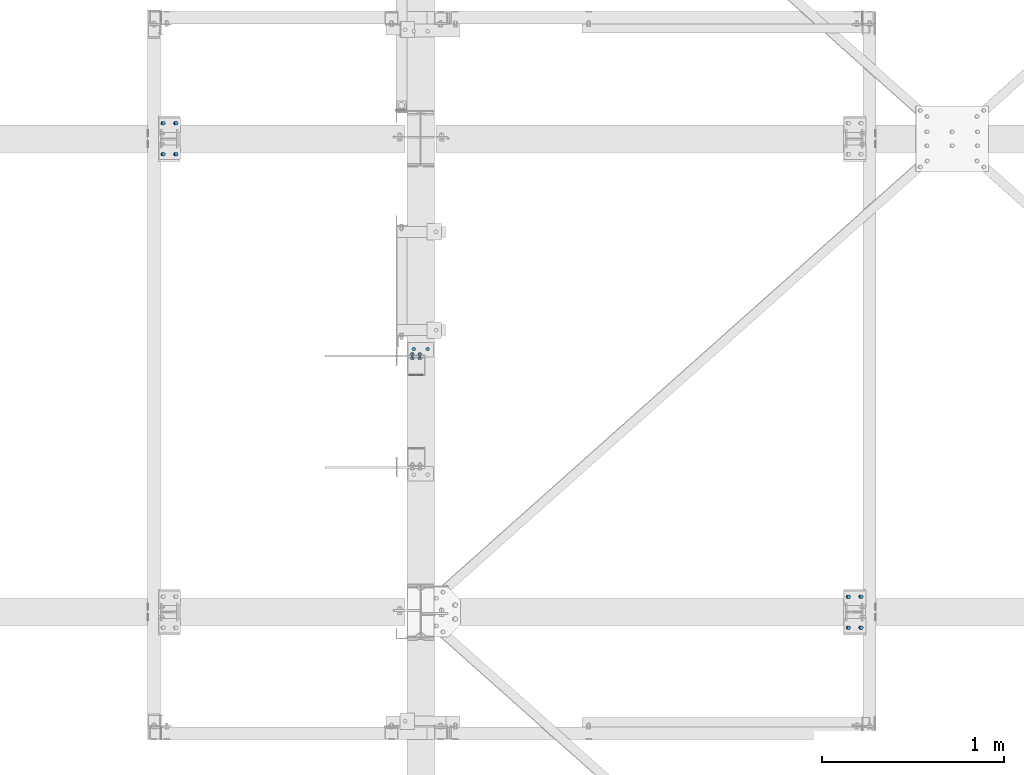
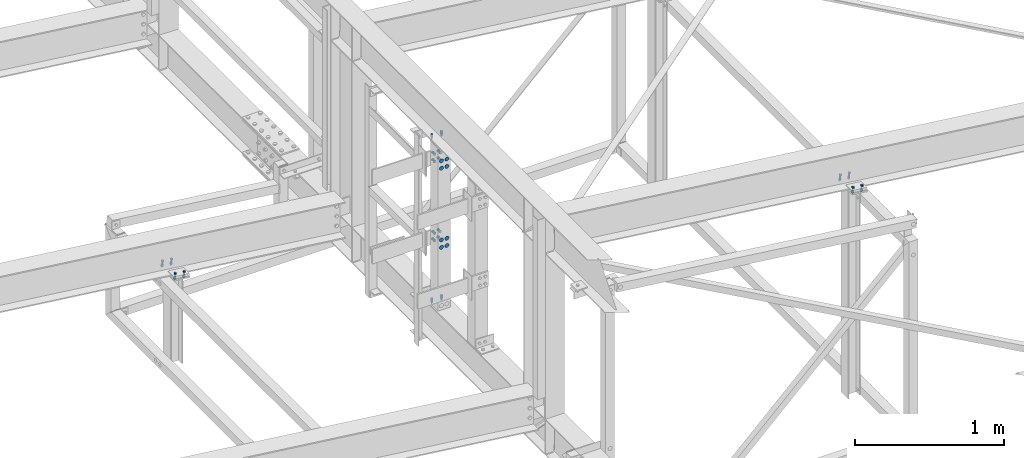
# One storey, part 157 of 3134: 10 mechanical fasteners, 5 elements without a shape of their own.
"""IFC2X3 building model written with IfcOpenShell, lengths in millimetres."""

from ifc_helpers import new_model, si_unit, frame, origin_with_axes, place, context, subcontext, project, spatial, faceted_brep, source, transform, mapped, material, type_object, element, aggregate, save


model = new_model("IFC2X3")

# Units and contexts
model_context = context("Model", 3, precision=1e-05, world=origin_with_axes())
body_context = subcontext(model_context, "Body", "Model", "MODEL_VIEW")
ifc_project = project(units=[si_unit("LENGTHUNIT", "METRE", prefix="MILLI"), si_unit("AREAUNIT", "SQUARE_METRE"), si_unit("VOLUMEUNIT", "CUBIC_METRE"), si_unit("MASSUNIT", "GRAM", prefix="KILO"), si_unit("TIMEUNIT", "SECOND"), si_unit("PLANEANGLEUNIT", "RADIAN"), si_unit("SOLIDANGLEUNIT", "STERADIAN"), si_unit("THERMODYNAMICTEMPERATUREUNIT", "DEGREE_CELSIUS"), si_unit("LUMINOUSINTENSITYUNIT", "LUMEN")], contexts=[model_context])

# Site, building, storey
site_placement = place(None, origin_with_axes())
site = spatial("IfcSite", under=ifc_project, at=site_placement, CompositionType="ELEMENT")
building_placement = place(site_placement, origin_with_axes())
building = spatial("IfcBuilding", under=site, at=building_placement, Name="Undefined", CompositionType="ELEMENT")
storey_placement = place(building_placement, origin_with_axes())
storey = spatial("IfcBuildingStorey", under=building, at=storey_placement, Name="Undefined", CompositionType="ELEMENT", Elevation=0.0)

# Assembly, mechanical fastener
assembly_1_placement = place(storey_placement, origin_with_axes())
assembly_1 = element("IfcElementAssembly", 1, at=assembly_1_placement, inside=storey, AssemblyPlace="NOTDEFINED", PredefinedType="RIGID_FRAME")
ifc_material = material(Name="8.8")
mechanical_fastener_type = type_object("IfcMechanicalFastenerType", Name="Bolt assembly")
shared_shape_1 = source(origin_with_axes(), body_context, "Body", "Brep", [
    faceted_brep([(10.9696551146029, -8.0, 0.0), (5.48482755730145, -8.0, 9.5), (-5.48482755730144, -8.0, 9.5), (-10.9696551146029, -8.0, 1.34339530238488e-15), (-5.48482755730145, -8.0, -9.5), (5.48482755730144, -8.0, -9.50000000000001), (5.48482755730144, 0.0, -9.50000000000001), (-5.48482755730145, 0.0, -9.5), (-10.9696551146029, 0.0, 1.34339530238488e-15), (-5.48482755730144, 0.0, 9.5), (5.48482755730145, 0.0, 9.5), (10.9696551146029, 0.0, 0.0), (6.0, 0.0, 0.0), (5.19615242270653, 0.0, 3.00000000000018), (2.99999999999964, 0.0, 5.19615242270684), (-6.21801588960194e-13, 0.0, 6.0), (-3.00000000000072, 0.0, 5.19615242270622), (-5.19615242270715, 0.0, 2.9999999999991), (-6.0, 0.0, -1.24360317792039e-12), (-5.19615242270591, 0.0, -3.00000000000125), (-2.99999999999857, 0.0, -5.19615242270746), (1.85874342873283e-12, 0.0, -6.0), (3.00000000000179, 0.0, -5.1961524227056), (5.19615242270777, 0.0, -2.99999999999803), (5.19615242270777, 35.0, -2.99999999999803), (3.00000000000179, 35.0, -5.1961524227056), (1.85874342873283e-12, 35.0, -6.0), (-2.99999999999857, 35.0, -5.19615242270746), (-5.19615242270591, 35.0, -3.00000000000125), (-6.0, 35.0, -1.24360317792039e-12), (-5.19615242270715, 35.0, 2.9999999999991), (-3.00000000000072, 35.0, 5.19615242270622), (-6.21801588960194e-13, 35.0, 6.0), (2.99999999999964, 35.0, 5.19615242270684), (5.19615242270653, 35.0, 3.00000000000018), (6.0, 35.0, 0.0), (10.9696551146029, 8.0, 0.0), (5.48482755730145, 8.0, 9.5), (-5.48482755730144, 8.0, 9.5), (-10.9696551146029, 8.0, 1.34339530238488e-15), (-5.48482755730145, 8.0, -9.5), (5.48482755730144, 8.0, -9.50000000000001), (5.48482755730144, 18.0, -9.50000000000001), (-5.48482755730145, 18.0, -9.5), (-10.9696551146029, 18.0, 1.34339530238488e-15), (-5.48482755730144, 18.0, 9.5), (5.48482755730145, 18.0, 9.5), (10.9696551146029, 18.0, 0.0)], [[[0, 1, 2, 3, 4, 5]], [[6, 7, 8, 9, 10, 11]], [[0, 11, 10, 1]], [[1, 10, 9, 2]], [[2, 9, 8, 3]], [[3, 8, 7, 4]], [[4, 7, 6, 5]], [[5, 6, 11, 0]], [[12, 13, 14, 15, 16, 17, 18, 19, 20, 21, 22, 23]], [[24, 25, 26, 27, 28, 29, 30, 31, 32, 33, 34, 35]], [[12, 35, 34, 13]], [[13, 34, 33, 14]], [[14, 33, 32, 15]], [[15, 32, 31, 16]], [[16, 31, 30, 17]], [[17, 30, 29, 18]], [[18, 29, 28, 19]], [[19, 28, 27, 20]], [[20, 27, 26, 21]], [[21, 26, 25, 22]], [[22, 25, 24, 23]], [[23, 24, 35, 12]], [[36, 37, 38, 39, 40, 41]], [[42, 43, 44, 45, 46, 47]], [[36, 47, 46, 37]], [[37, 46, 45, 38]], [[38, 45, 44, 39]], [[39, 44, 43, 40]], [[40, 43, 42, 41]], [[41, 42, 47, 36]]]),
    faceted_brep([(7.0, 0.0, 0.0), (6.06217782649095, 0.0, 3.50000000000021), (3.49999999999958, 0.0, 6.06217782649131), (-7.25435187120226e-13, 0.0, 7.0), (-3.50000000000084, 0.0, 6.06217782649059), (-6.06217782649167, 0.0, 3.49999999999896), (-7.0, 0.0, -1.45087037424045e-12), (-6.06217782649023, 0.0, -3.50000000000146), (-3.49999999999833, 0.0, -6.06217782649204), (2.1685340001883e-12, 0.0, -7.0), (3.50000000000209, 0.0, -6.06217782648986), (6.0621778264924, 0.0, -3.4999999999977), (6.0621778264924, 8.1, -3.4999999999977), (3.50000000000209, 8.1, -6.06217782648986), (2.1685340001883e-12, 8.1, -7.0), (-3.49999999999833, 8.1, -6.06217782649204), (-6.06217782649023, 8.1, -3.50000000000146), (-7.0, 8.1, -1.45087037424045e-12), (-6.06217782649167, 8.1, 3.49999999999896), (-3.50000000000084, 8.1, 6.06217782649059), (-7.25435187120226e-13, 8.1, 7.0), (3.49999999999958, 8.1, 6.06217782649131), (6.06217782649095, 8.1, 3.50000000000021), (7.0, 8.1, 0.0)], [[[0, 1, 2, 3, 4, 5, 6, 7, 8, 9, 10, 11]], [[12, 13, 14, 15, 16, 17, 18, 19, 20, 21, 22, 23]], [[0, 23, 22, 1]], [[1, 22, 21, 2]], [[2, 21, 20, 3]], [[3, 20, 19, 4]], [[4, 19, 18, 5]], [[5, 18, 17, 6]], [[6, 17, 16, 7]], [[7, 16, 15, 8]], [[8, 15, 14, 9]], [[9, 14, 13, 10]], [[10, 13, 12, 11]], [[11, 12, 23, 0]]]),
])
mechanical_fastener_1_placement = place(assembly_1_placement, frame((55837.0, 26095.0, 5593.0), z_axis=(0.0, 1.0, 0.0), x_axis=(1.0, 0.0, 0.0)))
mechanical_fastener_1 = element("IfcMechanicalFastener", 2, at=mechanical_fastener_1_placement, type_object=mechanical_fastener_type, material=ifc_material, Name="Bolt assembly", NominalDiameter=12.0, NominalLength=35.0, context=body_context, shape_type="MappedRepresentation", body=[
    mapped(shared_shape_1, transform((0.0, 0.0, 0.0))),
    mapped(shared_shape_1, transform((76.0, 0.0, 0.0))),
])
aggregate(assembly_1, [mechanical_fastener_1])

# Assembly, mechanical fasteners
assembly_2_placement = place(storey_placement, origin_with_axes())
assembly_2 = element("IfcElementAssembly", 3, at=assembly_2_placement, inside=storey, Name="HEA100", AssemblyPlace="NOTDEFINED", PredefinedType="RIGID_FRAME")
shared_shape_2 = source(origin_with_axes(), body_context, "Body", "Brep", [
    faceted_brep([(10.9696551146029, -36.0009821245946, 0.0), (5.48482755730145, -36.0009821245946, 9.5), (-5.48482755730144, -36.0009821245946, 9.5), (-10.9696551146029, -36.0009821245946, 1.34339530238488e-15), (-5.48482755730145, -36.0009821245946, -9.5), (5.48482755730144, -36.0009821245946, -9.50000000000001), (5.48482755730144, -28.0009821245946, -9.50000000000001), (-5.48482755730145, -28.0009821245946, -9.5), (-10.9696551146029, -28.0009821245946, 1.34339530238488e-15), (-5.48482755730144, -28.0009821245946, 9.5), (5.48482755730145, -28.0009821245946, 9.5), (10.9696551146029, -28.0009821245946, 0.0), (6.0, -28.0009821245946, 0.0), (5.19615242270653, -28.0009821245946, 3.00000000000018), (2.99999999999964, -28.0009821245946, 5.19615242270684), (-6.21801588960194e-13, -28.0009821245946, 6.0), (-3.00000000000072, -28.0009821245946, 5.19615242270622), (-5.19615242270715, -28.0009821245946, 2.9999999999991), (-6.0, -28.0009821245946, -1.24360317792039e-12), (-5.19615242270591, -28.0009821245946, -3.00000000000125), (-2.99999999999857, -28.0009821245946, -5.19615242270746), (1.85874342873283e-12, -28.0009821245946, -6.0), (3.00000000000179, -28.0009821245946, -5.1961524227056), (5.19615242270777, -28.0009821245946, -2.99999999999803), (5.19615242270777, 16.9990178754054, -2.99999999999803), (3.00000000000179, 16.9990178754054, -5.1961524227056), (1.85874342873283e-12, 16.9990178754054, -6.0), (-2.99999999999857, 16.9990178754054, -5.19615242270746), (-5.19615242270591, 16.9990178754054, -3.00000000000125), (-6.0, 16.9990178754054, -1.24360317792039e-12), (-5.19615242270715, 16.9990178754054, 2.9999999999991), (-3.00000000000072, 16.9990178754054, 5.19615242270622), (-6.21801588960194e-13, 16.9990178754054, 6.0), (2.99999999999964, 16.9990178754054, 5.19615242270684), (5.19615242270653, 16.9990178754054, 3.00000000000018), (6.0, 16.9990178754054, 0.0), (10.9696551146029, -0.000982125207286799, 0.0), (5.48482755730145, -0.000982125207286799, 9.5), (-5.48482755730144, -0.000982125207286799, 9.5), (-10.9696551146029, -0.000982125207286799, 1.34339530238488e-15), (-5.48482755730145, -0.000982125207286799, -9.5), (5.48482755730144, -0.000982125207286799, -9.50000000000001), (5.48482755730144, 9.99901787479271, -9.50000000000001), (-5.48482755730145, 9.99901787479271, -9.5), (-10.9696551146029, 9.99901787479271, 1.34339530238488e-15), (-5.48482755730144, 9.99901787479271, 9.5), (5.48482755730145, 9.99901787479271, 9.5), (10.9696551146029, 9.99901787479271, 0.0)], [[[0, 1, 2, 3, 4, 5]], [[6, 7, 8, 9, 10, 11]], [[0, 11, 10, 1]], [[1, 10, 9, 2]], [[2, 9, 8, 3]], [[3, 8, 7, 4]], [[4, 7, 6, 5]], [[5, 6, 11, 0]], [[12, 13, 14, 15, 16, 17, 18, 19, 20, 21, 22, 23]], [[24, 25, 26, 27, 28, 29, 30, 31, 32, 33, 34, 35]], [[12, 35, 34, 13]], [[13, 34, 33, 14]], [[14, 33, 32, 15]], [[15, 32, 31, 16]], [[16, 31, 30, 17]], [[17, 30, 29, 18]], [[18, 29, 28, 19]], [[19, 28, 27, 20]], [[20, 27, 26, 21]], [[21, 26, 25, 22]], [[22, 25, 24, 23]], [[23, 24, 35, 12]], [[36, 37, 38, 39, 40, 41]], [[42, 43, 44, 45, 46, 47]], [[36, 47, 46, 37]], [[37, 46, 45, 38]], [[38, 45, 44, 39]], [[39, 44, 43, 40]], [[40, 43, 42, 41]], [[41, 42, 47, 36]]]),
    faceted_brep([(7.0, -27.9009821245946, 0.0), (6.06217782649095, -27.9009821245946, 3.50000000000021), (3.49999999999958, -27.9009821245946, 6.06217782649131), (-7.25435187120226e-13, -27.9009821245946, 7.0), (-3.50000000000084, -27.9009821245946, 6.06217782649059), (-6.06217782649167, -27.9009821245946, 3.49999999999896), (-7.0, -27.9009821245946, -1.45087037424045e-12), (-6.06217782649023, -27.9009821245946, -3.50000000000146), (-3.49999999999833, -27.9009821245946, -6.06217782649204), (2.1685340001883e-12, -27.9009821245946, -7.0), (3.50000000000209, -27.9009821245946, -6.06217782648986), (6.0621778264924, -27.9009821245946, -3.4999999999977), (6.0621778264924, -19.9009821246, -3.4999999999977), (3.50000000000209, -19.9009821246, -6.06217782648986), (2.1685340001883e-12, -19.9009821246, -7.0), (-3.49999999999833, -19.9009821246, -6.06217782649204), (-6.06217782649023, -19.9009821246, -3.50000000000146), (-7.0, -19.9009821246, -1.45087037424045e-12), (-6.06217782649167, -19.9009821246, 3.49999999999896), (-3.50000000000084, -19.9009821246, 6.06217782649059), (-7.25435187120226e-13, -19.9009821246, 7.0), (3.49999999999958, -19.9009821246, 6.06217782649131), (6.06217782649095, -19.9009821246, 3.50000000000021), (7.0, -19.9009821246, 0.0), (7.0, -10.1009821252, 0.0), (6.06217782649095, -10.1009821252, 3.50000000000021), (3.49999999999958, -10.1009821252, 6.06217782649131), (-7.25435187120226e-13, -10.1009821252, 7.0), (-3.50000000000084, -10.1009821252, 6.06217782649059), (-6.06217782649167, -10.1009821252, 3.49999999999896), (-7.0, -10.1009821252, -1.45087037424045e-12), (-6.06217782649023, -10.1009821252, -3.50000000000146), (-3.49999999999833, -10.1009821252, -6.06217782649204), (2.1685340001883e-12, -10.1009821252, -7.0), (3.50000000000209, -10.1009821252, -6.06217782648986), (6.0621778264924, -10.1009821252, -3.4999999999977), (6.0621778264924, -0.000982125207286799, -3.4999999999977), (3.50000000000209, -0.000982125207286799, -6.06217782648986), (2.1685340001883e-12, -0.000982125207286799, -7.0), (-3.49999999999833, -0.000982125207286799, -6.06217782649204), (-6.06217782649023, -0.000982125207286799, -3.50000000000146), (-7.0, -0.000982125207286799, -1.45087037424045e-12), (-6.06217782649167, -0.000982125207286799, 3.49999999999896), (-3.50000000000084, -0.000982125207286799, 6.06217782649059), (-7.25435187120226e-13, -0.000982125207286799, 7.0), (3.49999999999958, -0.000982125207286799, 6.06217782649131), (6.06217782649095, -0.000982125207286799, 3.50000000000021), (7.0, -0.000982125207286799, 0.0)], [[[0, 1, 2, 3, 4, 5, 6, 7, 8, 9, 10, 11]], [[12, 13, 14, 15, 16, 17, 18, 19, 20, 21, 22, 23]], [[0, 23, 22, 1]], [[1, 22, 21, 2]], [[2, 21, 20, 3]], [[3, 20, 19, 4]], [[4, 19, 18, 5]], [[5, 18, 17, 6]], [[6, 17, 16, 7]], [[7, 16, 15, 8]], [[8, 15, 14, 9]], [[9, 14, 13, 10]], [[10, 13, 12, 11]], [[11, 12, 23, 0]], [[24, 25, 26, 27, 28, 29, 30, 31, 32, 33, 34, 35]], [[36, 37, 38, 39, 40, 41, 42, 43, 44, 45, 46, 47]], [[24, 47, 46, 25]], [[25, 46, 45, 26]], [[26, 45, 44, 27]], [[27, 44, 43, 28]], [[28, 43, 42, 29]], [[29, 42, 41, 30]], [[30, 41, 40, 31]], [[31, 40, 39, 32]], [[32, 39, 38, 33]], [[33, 38, 37, 34]], [[34, 37, 36, 35]], [[35, 36, 47, 24]]]),
])
mechanical_fastener_2_placement = place(assembly_2_placement, frame((54458.2532611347, 27335.0, 4256.76085935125), z_axis=(0.0, 1.0, 0.0), x_axis=(0.992623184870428, 0.0, -0.121240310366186)))
mechanical_fastener_2 = element("IfcMechanicalFastener", 4, at=mechanical_fastener_2_placement, type_object=mechanical_fastener_type, material=ifc_material, Name="Bolt assembly", NominalDiameter=12.0, NominalLength=45.0, context=body_context, shape_type="MappedRepresentation", body=[
    mapped(shared_shape_2, transform((0.0, 0.0, 0.0))),
    mapped(shared_shape_2, transform((70.0000000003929, -2.94676283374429e-10, 0.0))),
])
mechanical_fastener_3_placement = place(assembly_2_placement, frame((54458.2532611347, 27165.0, 4256.76085935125), z_axis=(0.0, 1.0, 0.0), x_axis=(0.992623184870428, 0.0, -0.121240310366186)))
mechanical_fastener_3 = element("IfcMechanicalFastener", 5, at=mechanical_fastener_3_placement, type_object=mechanical_fastener_type, material=ifc_material, Name="Bolt assembly", NominalDiameter=12.0, NominalLength=45.0, context=body_context, shape_type="MappedRepresentation", body=[
    mapped(shared_shape_2, transform((0.0, 0.0, 0.0))),
    mapped(shared_shape_2, transform((70.0000000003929, -2.94676283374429e-10, 0.0))),
])
aggregate(assembly_2, [mechanical_fastener_2, mechanical_fastener_3])

assembly_3_placement = place(storey_placement, origin_with_axes())
assembly_3 = element("IfcElementAssembly", 6, at=assembly_3_placement, inside=storey, Name="HEA100", AssemblyPlace="NOTDEFINED", PredefinedType="RIGID_FRAME")
mechanical_fastener_4_placement = place(assembly_3_placement, frame((58222.2532611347, 24735.0, 5223.02085935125), z_axis=(0.0, 1.0, 0.0), x_axis=(0.992623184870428, 0.0, -0.121240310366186)))
mechanical_fastener_4 = element("IfcMechanicalFastener", 7, at=mechanical_fastener_4_placement, type_object=mechanical_fastener_type, material=ifc_material, Name="Bolt assembly", NominalDiameter=12.0, NominalLength=45.0, context=body_context, shape_type="MappedRepresentation", body=[
    mapped(shared_shape_2, transform((0.0, 0.0, 0.0))),
    mapped(shared_shape_2, transform((70.0000000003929, -2.94676283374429e-10, 0.0))),
])
mechanical_fastener_5_placement = place(assembly_3_placement, frame((58222.2532611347, 24565.0, 5223.02085935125), z_axis=(0.0, 1.0, 0.0), x_axis=(0.992623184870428, 0.0, -0.121240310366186)))
mechanical_fastener_5 = element("IfcMechanicalFastener", 8, at=mechanical_fastener_5_placement, type_object=mechanical_fastener_type, material=ifc_material, Name="Bolt assembly", NominalDiameter=12.0, NominalLength=45.0, context=body_context, shape_type="MappedRepresentation", body=[
    mapped(shared_shape_2, transform((0.0, 0.0, 0.0))),
    mapped(shared_shape_2, transform((70.0000000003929, -2.94676283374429e-10, 0.0))),
])
aggregate(assembly_3, [mechanical_fastener_4, mechanical_fastener_5])

assembly_4_placement = place(storey_placement, origin_with_axes())
assembly_4 = element("IfcElementAssembly", 9, at=assembly_4_placement, inside=storey, AssemblyPlace="NOTDEFINED", PredefinedType="RIGID_FRAME")
shared_shape_3 = source(origin_with_axes(), body_context, "Body", "Brep", [
    faceted_brep([(16.5, 0.0, 0.0), (14.289419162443, 0.0, 8.25000000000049), (8.24999999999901, 0.0, 14.2894191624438), (-1.70995436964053e-12, 0.0, 16.5), (-8.25000000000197, 0.0, 14.2894191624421), (-14.2894191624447, 0.0, 8.24999999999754), (-16.5, 0.0, -3.41990873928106e-12), (-14.2894191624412, 0.0, -8.25000000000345), (-8.24999999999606, 0.0, -14.2894191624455), (5.11154442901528e-12, 0.0, -16.5), (8.25000000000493, 0.0, -14.2894191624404), (14.2894191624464, 0.0, -8.24999999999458), (14.2894191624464, 4.1, -8.24999999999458), (8.25000000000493, 4.1, -14.2894191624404), (5.11154442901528e-12, 4.1, -16.5), (-8.24999999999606, 4.1, -14.2894191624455), (-14.2894191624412, 4.1, -8.25000000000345), (-16.5, 4.1, -3.41990873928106e-12), (-14.2894191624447, 4.1, 8.24999999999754), (-8.25000000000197, 4.1, 14.2894191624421), (-1.70995436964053e-12, 4.1, 16.5), (8.24999999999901, 4.1, 14.2894191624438), (14.289419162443, 4.1, 8.25000000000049), (16.5, 4.1, 0.0)], [[[0, 1, 2, 3, 4, 5, 6, 7, 8, 9, 10, 11]], [[12, 13, 14, 15, 16, 17, 18, 19, 20, 21, 22, 23]], [[0, 23, 22, 1]], [[1, 22, 21, 2]], [[2, 21, 20, 3]], [[3, 20, 19, 4]], [[4, 19, 18, 5]], [[5, 18, 17, 6]], [[6, 17, 16, 7]], [[7, 16, 15, 8]], [[8, 15, 14, 9]], [[9, 14, 13, 10]], [[10, 13, 12, 11]], [[11, 12, 23, 0]]]),
])
mechanical_fastener_6_placement = place(assembly_4_placement, frame((55850.0, 25950.0, 5470.0), z_axis=(1.0, 0.0, 0.0), x_axis=(0.0, 0.0, -1.0)))
mechanical_fastener_6 = element("IfcMechanicalFastener", 10, at=mechanical_fastener_6_placement, type_object=mechanical_fastener_type, material=ifc_material, Name="Bolt assembly", NominalDiameter=30.0, NominalLength=4.0, context=body_context, shape_type="MappedRepresentation", body=[
    mapped(shared_shape_3, transform((0.0, 0.0, -21.0))),
    mapped(shared_shape_3, transform((60.0, 0.0, -21.0))),
    mapped(shared_shape_3, transform((0.0, 0.0, 21.0))),
    mapped(shared_shape_3, transform((60.0, 0.0, 21.0))),
])
mechanical_fastener_7_placement = place(assembly_4_placement, frame((55850.0, 25950.0, 4820.0), z_axis=(1.0, 0.0, 0.0), x_axis=(0.0, 0.0, -1.0)))
mechanical_fastener_7 = element("IfcMechanicalFastener", 11, at=mechanical_fastener_7_placement, type_object=mechanical_fastener_type, material=ifc_material, Name="Bolt assembly", NominalDiameter=30.0, NominalLength=4.0, context=body_context, shape_type="MappedRepresentation", body=[
    mapped(shared_shape_3, transform((0.0, 0.0, -21.0))),
    mapped(shared_shape_3, transform((60.0, 0.0, -21.0))),
    mapped(shared_shape_3, transform((0.0, 0.0, 21.0))),
    mapped(shared_shape_3, transform((60.0, 0.0, 21.0))),
])
shared_shape_4 = source(origin_with_axes(), body_context, "Body", "Brep", [
    faceted_brep([(10.9696551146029, -12.0, 0.0), (5.48482755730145, -12.0, 9.5), (-5.48482755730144, -12.0, 9.5), (-10.9696551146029, -12.0, 1.34339530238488e-15), (-5.48482755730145, -12.0, -9.5), (5.48482755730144, -12.0, -9.50000000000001), (5.48482755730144, -4.0, -9.50000000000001), (-5.48482755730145, -4.0, -9.5), (-10.9696551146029, -4.0, 1.34339530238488e-15), (-5.48482755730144, -4.0, 9.5), (5.48482755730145, -4.0, 9.5), (10.9696551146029, -4.0, 0.0), (6.0, -4.0, 0.0), (5.19615242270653, -4.0, 3.00000000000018), (2.99999999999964, -4.0, 5.19615242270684), (-6.21801588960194e-13, -4.0, 6.0), (-3.00000000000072, -4.0, 5.19615242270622), (-5.19615242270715, -4.0, 2.9999999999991), (-6.0, -4.0, -1.24360317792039e-12), (-5.19615242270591, -4.0, -3.00000000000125), (-2.99999999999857, -4.0, -5.19615242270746), (1.85874342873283e-12, -4.0, -6.0), (3.00000000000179, -4.0, -5.1961524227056), (5.19615242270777, -4.0, -2.99999999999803), (5.19615242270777, 26.0, -2.99999999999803), (3.00000000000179, 26.0, -5.1961524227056), (1.85874342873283e-12, 26.0, -6.0), (-2.99999999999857, 26.0, -5.19615242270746), (-5.19615242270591, 26.0, -3.00000000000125), (-6.0, 26.0, -1.24360317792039e-12), (-5.19615242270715, 26.0, 2.9999999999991), (-3.00000000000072, 26.0, 5.19615242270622), (-6.21801588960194e-13, 26.0, 6.0), (2.99999999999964, 26.0, 5.19615242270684), (5.19615242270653, 26.0, 3.00000000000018), (6.0, 26.0, 0.0), (10.9696551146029, 12.0, 0.0), (5.48482755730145, 12.0, 9.5), (-5.48482755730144, 12.0, 9.5), (-10.9696551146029, 12.0, 1.34339530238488e-15), (-5.48482755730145, 12.0, -9.5), (5.48482755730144, 12.0, -9.50000000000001), (5.48482755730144, 22.0, -9.50000000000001), (-5.48482755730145, 22.0, -9.5), (-10.9696551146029, 22.0, 1.34339530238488e-15), (-5.48482755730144, 22.0, 9.5), (5.48482755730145, 22.0, 9.5), (10.9696551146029, 22.0, 0.0)], [[[0, 1, 2, 3, 4, 5]], [[6, 7, 8, 9, 10, 11]], [[0, 11, 10, 1]], [[1, 10, 9, 2]], [[2, 9, 8, 3]], [[3, 8, 7, 4]], [[4, 7, 6, 5]], [[5, 6, 11, 0]], [[12, 13, 14, 15, 16, 17, 18, 19, 20, 21, 22, 23]], [[24, 25, 26, 27, 28, 29, 30, 31, 32, 33, 34, 35]], [[12, 35, 34, 13]], [[13, 34, 33, 14]], [[14, 33, 32, 15]], [[15, 32, 31, 16]], [[16, 31, 30, 17]], [[17, 30, 29, 18]], [[18, 29, 28, 19]], [[19, 28, 27, 20]], [[20, 27, 26, 21]], [[21, 26, 25, 22]], [[22, 25, 24, 23]], [[23, 24, 35, 12]], [[36, 37, 38, 39, 40, 41]], [[42, 43, 44, 45, 46, 47]], [[36, 47, 46, 37]], [[37, 46, 45, 38]], [[38, 45, 44, 39]], [[39, 44, 43, 40]], [[40, 43, 42, 41]], [[41, 42, 47, 36]]]),
    faceted_brep([(7.0, -0.1, 0.0), (6.06217782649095, -0.1, 3.50000000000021), (3.49999999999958, -0.1, 6.06217782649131), (-7.25435187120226e-13, -0.1, 7.0), (-3.50000000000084, -0.1, 6.06217782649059), (-6.06217782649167, -0.1, 3.49999999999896), (-7.0, -0.1, -1.45087037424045e-12), (-6.06217782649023, -0.1, -3.50000000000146), (-3.49999999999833, -0.1, -6.06217782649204), (2.1685340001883e-12, -0.1, -7.0), (3.50000000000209, -0.1, -6.06217782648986), (6.0621778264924, -0.1, -3.4999999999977), (6.0621778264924, 12.0, -3.4999999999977), (3.50000000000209, 12.0, -6.06217782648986), (2.1685340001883e-12, 12.0, -7.0), (-3.49999999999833, 12.0, -6.06217782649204), (-6.06217782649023, 12.0, -3.50000000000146), (-7.0, 12.0, -1.45087037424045e-12), (-6.06217782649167, 12.0, 3.49999999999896), (-3.50000000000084, 12.0, 6.06217782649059), (-7.25435187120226e-13, 12.0, 7.0), (3.49999999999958, 12.0, 6.06217782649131), (6.06217782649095, 12.0, 3.50000000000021), (7.0, 12.0, 0.0), (7.0, -3.9, 0.0), (6.06217782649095, -3.9, 3.50000000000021), (3.49999999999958, -3.9, 6.06217782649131), (-7.25435187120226e-13, -3.9, 7.0), (-3.50000000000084, -3.9, 6.06217782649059), (-6.06217782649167, -3.9, 3.49999999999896), (-7.0, -3.9, -1.45087037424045e-12), (-6.06217782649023, -3.9, -3.50000000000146), (-3.49999999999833, -3.9, -6.06217782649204), (2.1685340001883e-12, -3.9, -7.0), (3.50000000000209, -3.9, -6.06217782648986), (6.0621778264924, -3.9, -3.4999999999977), (6.0621778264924, 0.0999999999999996, -3.4999999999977), (3.50000000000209, 0.0999999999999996, -6.06217782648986), (2.1685340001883e-12, 0.0999999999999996, -7.0), (-3.49999999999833, 0.0999999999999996, -6.06217782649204), (-6.06217782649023, 0.0999999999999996, -3.50000000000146), (-7.0, 0.0999999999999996, -1.45087037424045e-12), (-6.06217782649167, 0.0999999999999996, 3.49999999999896), (-3.50000000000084, 0.0999999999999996, 6.06217782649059), (-7.25435187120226e-13, 0.0999999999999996, 7.0), (3.49999999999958, 0.0999999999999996, 6.06217782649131), (6.06217782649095, 0.0999999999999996, 3.50000000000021), (7.0, 0.0999999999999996, 0.0)], [[[0, 1, 2, 3, 4, 5, 6, 7, 8, 9, 10, 11]], [[12, 13, 14, 15, 16, 17, 18, 19, 20, 21, 22, 23]], [[0, 23, 22, 1]], [[1, 22, 21, 2]], [[2, 21, 20, 3]], [[3, 20, 19, 4]], [[4, 19, 18, 5]], [[5, 18, 17, 6]], [[6, 17, 16, 7]], [[7, 16, 15, 8]], [[8, 15, 14, 9]], [[9, 14, 13, 10]], [[10, 13, 12, 11]], [[11, 12, 23, 0]], [[24, 25, 26, 27, 28, 29, 30, 31, 32, 33, 34, 35]], [[36, 37, 38, 39, 40, 41, 42, 43, 44, 45, 46, 47]], [[24, 47, 46, 25]], [[25, 46, 45, 26]], [[26, 45, 44, 27]], [[27, 44, 43, 28]], [[28, 43, 42, 29]], [[29, 42, 41, 30]], [[30, 41, 40, 31]], [[31, 40, 39, 32]], [[32, 39, 38, 33]], [[33, 38, 37, 34]], [[34, 37, 36, 35]], [[35, 36, 47, 24]]]),
])
mechanical_fastener_8_placement = place(assembly_4_placement, frame((55850.0, 26050.0, 4820.0), z_axis=(1.0, 0.0, 0.0), x_axis=(0.0, 0.0, -1.0)))
mechanical_fastener_8 = element("IfcMechanicalFastener", 12, at=mechanical_fastener_8_placement, type_object=mechanical_fastener_type, material=ifc_material, Name="Bolt assembly", NominalDiameter=12.0, NominalLength=30.0, context=body_context, shape_type="MappedRepresentation", body=[
    mapped(shared_shape_4, transform((0.0, 0.0, -21.0))),
    mapped(shared_shape_4, transform((60.0, 0.0, -21.0))),
    mapped(shared_shape_4, transform((0.0, 0.0, 21.0))),
    mapped(shared_shape_4, transform((60.0, 0.0, 21.0))),
])
mechanical_fastener_9_placement = place(assembly_4_placement, frame((55850.0, 26050.0, 5470.0), z_axis=(1.0, 0.0, 0.0), x_axis=(0.0, 0.0, -1.0)))
mechanical_fastener_9 = element("IfcMechanicalFastener", 13, at=mechanical_fastener_9_placement, type_object=mechanical_fastener_type, material=ifc_material, Name="Bolt assembly", NominalDiameter=12.0, NominalLength=30.0, context=body_context, shape_type="MappedRepresentation", body=[
    mapped(shared_shape_4, transform((0.0, 0.0, -21.0))),
    mapped(shared_shape_4, transform((60.0, 0.0, -21.0))),
    mapped(shared_shape_4, transform((0.0, 0.0, 21.0))),
    mapped(shared_shape_4, transform((60.0, 0.0, 21.0))),
])
aggregate(assembly_4, [mechanical_fastener_6, mechanical_fastener_7, mechanical_fastener_8, mechanical_fastener_9])

# Assembly, mechanical fastener
assembly_5_placement = place(storey_placement, origin_with_axes())
assembly_5 = element("IfcElementAssembly", 14, at=assembly_5_placement, inside=storey, AssemblyPlace="NOTDEFINED", PredefinedType="RIGID_FRAME")
shared_shape_5 = source(origin_with_axes(), body_context, "Body", "Brep", [
    faceted_brep([(10.9696551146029, -16.0, 0.0), (5.48482755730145, -16.0, 9.5), (-5.48482755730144, -16.0, 9.5), (-10.9696551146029, -16.0, 1.34339530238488e-15), (-5.48482755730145, -16.0, -9.5), (5.48482755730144, -16.0, -9.50000000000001), (5.48482755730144, -8.0, -9.50000000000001), (-5.48482755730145, -8.0, -9.5), (-10.9696551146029, -8.0, 1.34339530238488e-15), (-5.48482755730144, -8.0, 9.5), (5.48482755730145, -8.0, 9.5), (10.9696551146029, -8.0, 0.0), (6.0, -8.0, 0.0), (5.19615242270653, -8.0, 3.00000000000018), (2.99999999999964, -8.0, 5.19615242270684), (-6.21801588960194e-13, -8.0, 6.0), (-3.00000000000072, -8.0, 5.19615242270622), (-5.19615242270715, -8.0, 2.9999999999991), (-6.0, -8.0, -1.24360317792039e-12), (-5.19615242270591, -8.0, -3.00000000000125), (-2.99999999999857, -8.0, -5.19615242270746), (1.85874342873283e-12, -8.0, -6.0), (3.00000000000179, -8.0, -5.1961524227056), (5.19615242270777, -8.0, -2.99999999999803), (5.19615242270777, 27.0, -2.99999999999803), (3.00000000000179, 27.0, -5.1961524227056), (1.85874342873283e-12, 27.0, -6.0), (-2.99999999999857, 27.0, -5.19615242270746), (-5.19615242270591, 27.0, -3.00000000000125), (-6.0, 27.0, -1.24360317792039e-12), (-5.19615242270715, 27.0, 2.9999999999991), (-3.00000000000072, 27.0, 5.19615242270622), (-6.21801588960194e-13, 27.0, 6.0), (2.99999999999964, 27.0, 5.19615242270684), (5.19615242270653, 27.0, 3.00000000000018), (6.0, 27.0, 0.0), (10.9696551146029, 0.0, 0.0), (5.48482755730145, 0.0, 9.5), (-5.48482755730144, 0.0, 9.5), (-10.9696551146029, 0.0, 1.34339530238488e-15), (-5.48482755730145, 0.0, -9.5), (5.48482755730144, 0.0, -9.50000000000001), (5.48482755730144, 10.0, -9.50000000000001), (-5.48482755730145, 10.0, -9.5), (-10.9696551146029, 10.0, 1.34339530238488e-15), (-5.48482755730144, 10.0, 9.5), (5.48482755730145, 10.0, 9.5), (10.9696551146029, 10.0, 0.0)], [[[0, 1, 2, 3, 4, 5]], [[6, 7, 8, 9, 10, 11]], [[0, 11, 10, 1]], [[1, 10, 9, 2]], [[2, 9, 8, 3]], [[3, 8, 7, 4]], [[4, 7, 6, 5]], [[5, 6, 11, 0]], [[12, 13, 14, 15, 16, 17, 18, 19, 20, 21, 22, 23]], [[24, 25, 26, 27, 28, 29, 30, 31, 32, 33, 34, 35]], [[12, 35, 34, 13]], [[13, 34, 33, 14]], [[14, 33, 32, 15]], [[15, 32, 31, 16]], [[16, 31, 30, 17]], [[17, 30, 29, 18]], [[18, 29, 28, 19]], [[19, 28, 27, 20]], [[20, 27, 26, 21]], [[21, 26, 25, 22]], [[22, 25, 24, 23]], [[23, 24, 35, 12]], [[36, 37, 38, 39, 40, 41]], [[42, 43, 44, 45, 46, 47]], [[36, 47, 46, 37]], [[37, 46, 45, 38]], [[38, 45, 44, 39]], [[39, 44, 43, 40]], [[40, 43, 42, 41]], [[41, 42, 47, 36]]]),
    faceted_brep([(7.0, -8.0, 0.0), (6.06217782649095, -8.0, 3.50000000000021), (3.49999999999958, -8.0, 6.06217782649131), (-7.25435187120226e-13, -8.0, 7.0), (-3.50000000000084, -8.0, 6.06217782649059), (-6.06217782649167, -8.0, 3.49999999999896), (-7.0, -8.0, -1.45087037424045e-12), (-6.06217782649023, -8.0, -3.50000000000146), (-3.49999999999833, -8.0, -6.06217782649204), (2.1685340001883e-12, -8.0, -7.0), (3.50000000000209, -8.0, -6.06217782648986), (6.0621778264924, -8.0, -3.4999999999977), (6.0621778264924, 0.0999999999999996, -3.4999999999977), (3.50000000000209, 0.0999999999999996, -6.06217782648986), (2.1685340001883e-12, 0.0999999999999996, -7.0), (-3.49999999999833, 0.0999999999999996, -6.06217782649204), (-6.06217782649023, 0.0999999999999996, -3.50000000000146), (-7.0, 0.0999999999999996, -1.45087037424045e-12), (-6.06217782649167, 0.0999999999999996, 3.49999999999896), (-3.50000000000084, 0.0999999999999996, 6.06217782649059), (-7.25435187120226e-13, 0.0999999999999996, 7.0), (3.49999999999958, 0.0999999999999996, 6.06217782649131), (6.06217782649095, 0.0999999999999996, 3.50000000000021), (7.0, 0.0999999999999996, 0.0)], [[[0, 1, 2, 3, 4, 5, 6, 7, 8, 9, 10, 11]], [[12, 13, 14, 15, 16, 17, 18, 19, 20, 21, 22, 23]], [[0, 23, 22, 1]], [[1, 22, 21, 2]], [[2, 21, 20, 3]], [[3, 20, 19, 4]], [[4, 19, 18, 5]], [[5, 18, 17, 6]], [[6, 17, 16, 7]], [[7, 16, 15, 8]], [[8, 15, 14, 9]], [[9, 14, 13, 10]], [[10, 13, 12, 11]], [[11, 12, 23, 0]]]),
])
mechanical_fastener_10_placement = place(assembly_5_placement, frame((55837.0, 26095.0, 4237.0), z_axis=(0.0, 1.0, 0.0), x_axis=(1.0, 0.0, 0.0)))
mechanical_fastener_10 = element("IfcMechanicalFastener", 15, at=mechanical_fastener_10_placement, type_object=mechanical_fastener_type, material=ifc_material, Name="Bolt assembly", NominalDiameter=12.0, NominalLength=35.0, context=body_context, shape_type="MappedRepresentation", body=[
    mapped(shared_shape_5, transform((0.0, 0.0, 0.0))),
    mapped(shared_shape_5, transform((76.0, 0.0, 0.0))),
])
aggregate(assembly_5, [mechanical_fastener_10])

save(model, "model.ifc")
